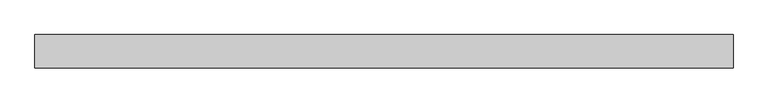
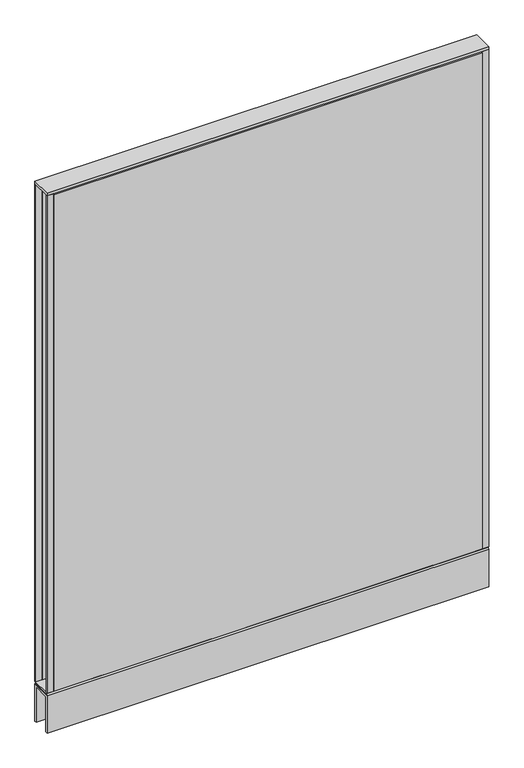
"""IFC4 building model written with IfcOpenShell, lengths in millimetres: furniture geometry, Steelcase - Kick Solutions - Panel - Monolithic - Tackable Acoustical : 54H x 42W."""

from ifc_helpers import new_model, si_unit, frame, origin, place, context, project, spatial, polyline, outline, extrude, source, transform, mapped, element, save


def furniture_e00df612(model_context):
    return source(origin(), model_context, "Body", "SweptSolid", [
        extrude(outline(polyline([(0.0, 101.7169049), (-3.1750015, 101.7169049), (-3.1750015, 1371.7169018), (0.0, 1368.6357466), (0.0, 101.7169049)])), frame((15.8749996, 0.0, 0.0), z_axis=(1.0, 0.0, 0.0), x_axis=(0.0, 1.0, 0.0)), (0.0, 0.0, 1.0), 1035.0500008),
        extrude(outline(polyline([(-50.8000015, 101.7169049), (-50.8000015, 1368.6357466), (-47.625, 1371.7169018), (-47.625, 101.7169049), (-50.8000015, 101.7169049)])), frame((15.8749996, 0.0, 0.0), z_axis=(1.0, 0.0, 0.0), x_axis=(0.0, 1.0, 0.0)), (0.0, 0.0, 1.0), 1035.0500008),
        extrude(outline(polyline([(1066.8, -3.1750015), (1050.9250004, -3.1750015), (1050.9250004, 0.0), (1066.8, 0.0), (1066.8, -3.1750015)])), frame((0.0, 0.0, 101.7169049), z_axis=(0.0, 0.0, 1.0), x_axis=(1.0, 0.0, 0.0)), (0.0, 0.0, 1.0), 1269.999997),
        extrude(outline(polyline([(15.8749996, -50.8000015), (0.0, -50.8000015), (0.0, -47.625), (15.8749996, -47.625), (15.8749996, -50.8000015)])), frame((0.0, 0.0, 101.7169049), z_axis=(0.0, 0.0, 1.0), x_axis=(1.0, 0.0, 0.0)), (0.0, 0.0, 1.0), 1269.999997),
        extrude(outline(polyline([(-50.7995075, 101.7169049), (-0.000494, 101.7169049), (-3.0583512, 98.5421458), (-47.7416503, 98.5421458), (-50.7995075, 101.7169049)])), frame((0.0, 0.0, 0.0), z_axis=(1.0, 0.0, 0.0), x_axis=(0.0, 1.0, 0.0)), (0.0, 0.0, 1.0), 1066.8),
        extrude(outline(polyline([(1066.8, 0.0), (1066.8, -50.8000015), (0.0, -50.8000015), (0.0, 0.0), (1066.8, 0.0)])), frame((0.0, 0.0, 1371.7169018), z_axis=(0.0, 0.0, 1.0), x_axis=(1.0, 0.0, 0.0)), (0.0, 0.0, 1.0), 6.35),
        extrude(outline(polyline([(15.8749996, -3.1750015), (0.0, -3.1750015), (0.0, 0.0), (15.8749996, 0.0), (15.8749996, -3.1750015)])), frame((0.0, 0.0, 101.7169049), z_axis=(0.0, 0.0, 1.0), x_axis=(1.0, 0.0, 0.0)), (0.0, 0.0, 1.0), 1269.999997),
        extrude(outline(polyline([(1066.8, -50.8000015), (1050.9250004, -50.8000015), (1050.9250004, -47.625), (1066.8, -47.625), (1066.8, -50.8000015)])), frame((0.0, 0.0, 101.7169049), z_axis=(0.0, 0.0, 1.0), x_axis=(1.0, 0.0, 0.0)), (0.0, 0.0, 1.0), 1269.999997),
        extrude(outline(polyline([(-50.8000015, 95.3668927), (-47.6247484, 98.5421458), (-3.1752531, 98.5421458), (0.0, 95.3668927), (-50.8000015, 95.3668927)])), frame((0.0, 0.0, 0.0), z_axis=(1.0, 0.0, 0.0), x_axis=(0.0, 1.0, 0.0)), (0.0, 0.0, 1.0), 1066.8),
        extrude(outline(polyline([(0.0, 0.0), (-5.08, 0.0), (-5.08, 90.2869018), (-45.7200015, 90.2869018), (-45.7200015, 0.0), (-50.8000015, 0.0), (-50.8000015, 95.3669018), (0.0, 95.3669018), (0.0, 0.0)])), frame((0.0, 0.0, 0.0), z_axis=(1.0, 0.0, 0.0), x_axis=(0.0, 1.0, 0.0)), (0.0, 0.0, 1.0), 1066.8),
    ])


if __name__ == "__main__":
    model = new_model("IFC4")
    model_context = context("Model", 3, world=origin())
    ifc_project = project(units=[si_unit("LENGTHUNIT", "METRE", prefix="MILLI")], contexts=[model_context])
    site = spatial("IfcSite", under=ifc_project)
    building = spatial("IfcBuilding", under=site)
    placement = place(None, origin())
    furniture_shape = furniture_e00df612(model_context)
    element("IfcFurniture", 1, ObjectType="Steelcase - Kick Solutions - Panel - Monolithic - Tackable Acoustical : 54H x 42W", at=placement, inside=building, context=model_context, shape_type="MappedRepresentation", body=[
        mapped(furniture_shape, transform((0.0, 0.0, 0.0), x_axis=(1.0, 0.0, 0.0), y_axis=(0.0, 1.0, 0.0), z_axis=(0.0, 0.0, 1.0))),
    ])
    save(model, "model.ifc")
